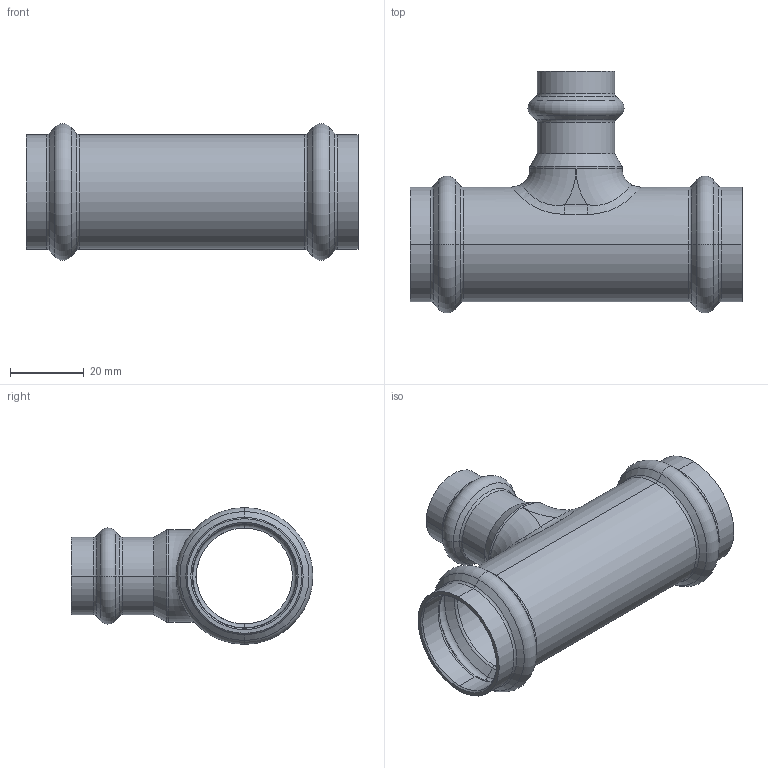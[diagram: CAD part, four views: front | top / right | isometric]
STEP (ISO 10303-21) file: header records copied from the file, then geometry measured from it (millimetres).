
FILE_DESCRIPTION (( 'STEP AP203' ), '1' );
FILE_NAME ('SP5130 Ø28-18-28.STEP', '2017-04-25T14:30:25', ( '' ), ( '' ), 'SwSTEP 2.0', 'SolidWorks 2016', '' );
FILE_SCHEMA (( 'CONFIG_CONTROL_DESIGN' ));
Length unit declared in the file: millimetre
Products named in the file (1): SP5130 Ø28-18-28
Bounding box: 90 x 65.55 x 37.1 mm (x, y, z)
Volume: 19351.5 mm3; surface area: 22289.4 mm2
Topology: 1 solids, 1 shells, 128 faces, 268 edges, 140 vertices
Faces by surface type: torus 44, cone 36, cylinder 35, plane 7, bspline 6
Entity records: 4755 total; most frequent: CARTESIAN_POINT 1925, DIRECTION 666, ORIENTED_EDGE 528, AXIS2_PLACEMENT_3D 297, EDGE_CURVE 264, CIRCLE 174, VERTEX_POINT 140, EDGE_LOOP 134
